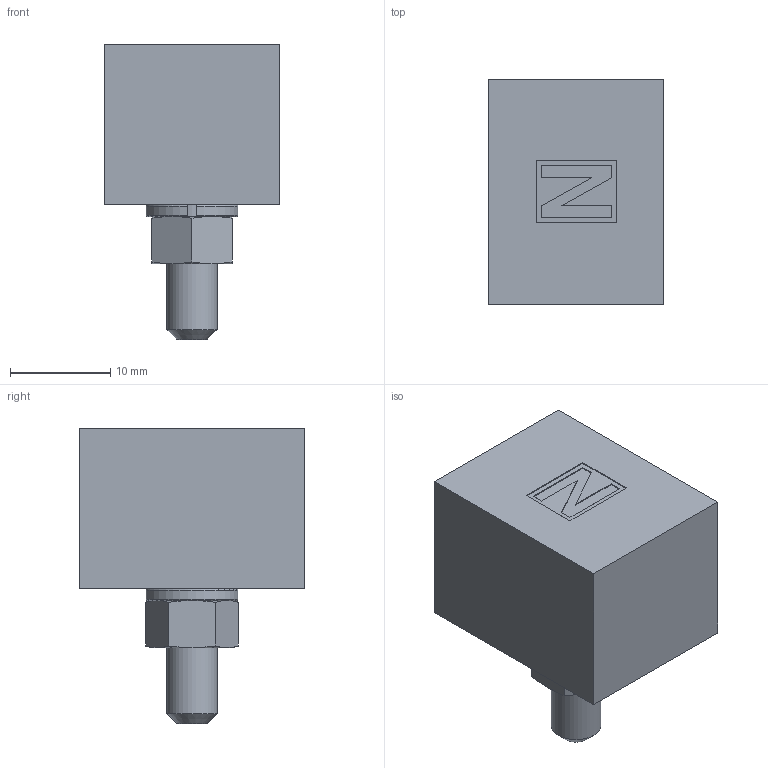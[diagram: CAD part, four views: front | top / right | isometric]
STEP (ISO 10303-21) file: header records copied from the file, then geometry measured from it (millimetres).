
FILE_DESCRIPTION(/* description */ ('Katalogmodell Elobau'),/* implementation_level */ '2;1');
FILE_NAME(/* name */ 'Katalogdaten.stp',/* time_stamp */ '2015-04-28T08:15:46+02:00',/* author */ ('Elobau GmbH & Co. KG'),/* organization */ ('Elobau GmbH & Co. KG'),/* preprocessor_version */ 'ST-DEVELOPER v15',/* originating_system */ 'SIEMENS PLM Software NX 8.5',/* authorisation */ '');
FILE_SCHEMA (('AUTOMOTIVE_DESIGN { 1 0 10303 214 3 1 1 1 }'));
Length unit declared in the file: millimetre
Products named in the file (1): 301510_B
Bounding box: 17.5 x 22.5 x 29.5 mm (x, y, z)
Volume: 6863.9 mm3; surface area: 2654.4 mm2
Topology: 3 solids, 3 shells, 55 faces, 126 edges, 80 vertices
Faces by surface type: plane 35, cone 13, torus 4, cylinder 3
Full cylindrical faces by diameter (mm): 5 x1
Entity records: 1647 total; most frequent: CARTESIAN_POINT 426, ORIENTED_EDGE 246, DIRECTION 226, EDGE_CURVE 123, VERTEX_POINT 79, AXIS2_PLACEMENT_3D 79, LINE 68, VECTOR 68
